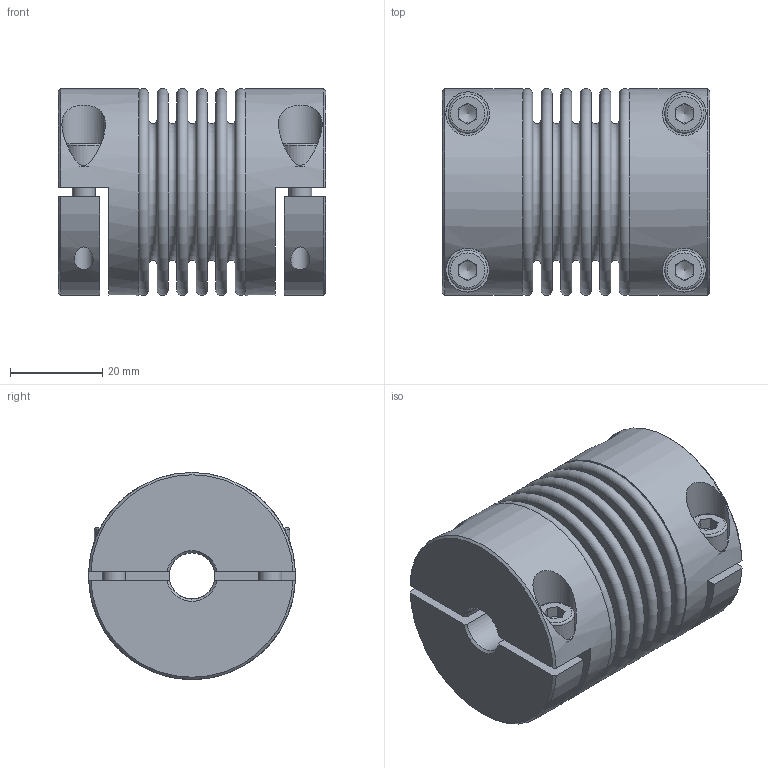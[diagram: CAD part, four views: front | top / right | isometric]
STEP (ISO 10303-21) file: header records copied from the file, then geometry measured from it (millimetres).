
FILE_DESCRIPTION( ( 'Unknown' ), '1' );
FILE_NAME( 'C:/Users/skarpstein/Desktop/KB4HC/KB4HC-18-58.stp', 'Unknown', ( 'Unknown' ), ( 'Unknown' ), 'PSStep 16.0.42', 'Unknown', ' ' );
FILE_SCHEMA( ( 'AUTOMOTIVE_DESIGN { 1 0 10303 214 1 1 1 1 }' ) );
Length unit declared in the file: millimetre
Products named in the file (5): Assem1; KN4HC-18; BK18_Standard_0; Socket Head Cap Screw_DIN_DIN 912 M5 x 16 --- 16N_4
Assembly tree (9 placements, depth 2):
  Assem1
    KN4HC-18  x2
    KN4HC-18  x2
    BK18_Standard_0
    Socket Head Cap Screw_DIN_DIN 912 M5 x 16 --- 16N_4  x4
Bounding box: 58.08 x 45 x 45 mm (x, y, z)
Volume: 50813.7 mm3; surface area: 44114 mm2
Topology: 9 solids, 9 shells, 186 faces, 385 edges, 245 vertices
Faces by surface type: plane 106, cylinder 32, torus 32, cone 16
Full cylindrical faces by diameter (mm): 4.134 x4, 5 x4, 5.3 x4, 8.5 x4, 9.5 x4, 10 x2, 40.4 x2, 41 x2, 45 x2
Entity records: 3486 total; most frequent: CARTESIAN_POINT 673, DIRECTION 430, ORIENTED_EDGE 278, AXIS2_PLACEMENT_3D 195, EDGE_LOOP 176, EDGE_CURVE 139, FACE_OUTER_BOUND 138, VERTEX_POINT 128
